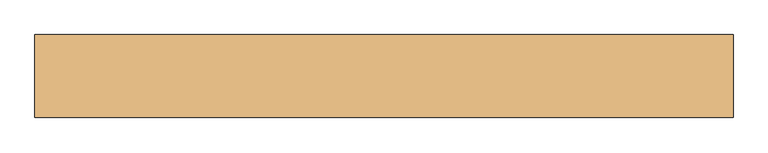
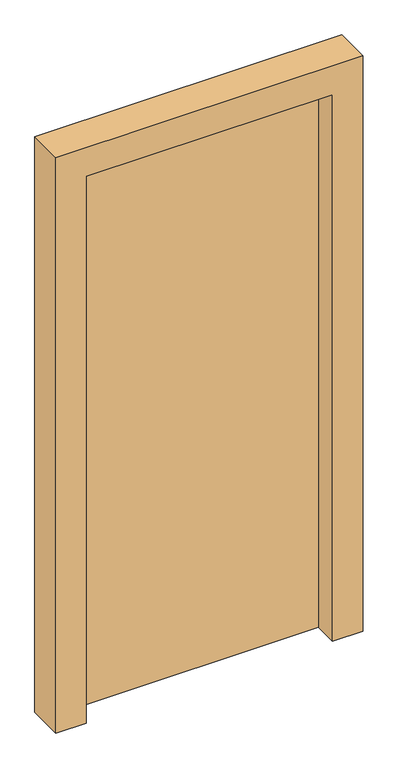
"""IFC4 building model written with IfcOpenShell, lengths in millimetres: door geometry, LOC_Enkeldörr : LOC_Enkeldörr Karm=100."""

from ifc_helpers import new_model, si_unit, frame, origin, origin_with_axes, place, context, project, spatial, polyline, outline, extrude, source, transform, mapped, element, save


def door_8c2f3970(model_context):
    return source(origin(), model_context, "Body", "SweptSolid", [
        extrude(outline(polyline([(405.0, 60.0), (405.0, 20.0), (-405.0, 20.0), (-405.0, 60.0), (405.0, 60.0)])), origin_with_axes(), (0.0, 0.0, 1.0), 1900.0),
        extrude(outline(polyline([(2000.0, 505.0), (2000.0, -505.0), (0.0, -505.0), (0.0, -405.0), (1900.0, -405.0), (1900.0, 405.0), (0.0, 405.0), (0.0, 505.0), (2000.0, 505.0)])), frame((0.0, -60.0, 0.0), z_axis=(0.0, 1.0, 0.0), x_axis=(0.0, 0.0, 1.0)), (0.0, 0.0, 1.0), 120.0),
    ])


if __name__ == "__main__":
    model = new_model("IFC4")
    model_context = context("Model", 3, world=origin())
    ifc_project = project(units=[si_unit("LENGTHUNIT", "METRE", prefix="MILLI")], contexts=[model_context])
    site = spatial("IfcSite", under=ifc_project)
    building = spatial("IfcBuilding", under=site)
    placement = place(None, origin())
    door_shape = door_8c2f3970(model_context)
    element("IfcDoor", 1, ObjectType="LOC_Enkeldörr : LOC_Enkeldörr Karm=100", at=placement, inside=building, context=model_context, shape_type="MappedRepresentation", body=[
        mapped(door_shape, transform((0.0, 0.0, 0.0), x_axis=(1.0, 0.0, 0.0), y_axis=(0.0, 1.0, 0.0), z_axis=(0.0, 0.0, 1.0))),
    ])
    save(model, "model.ifc")
